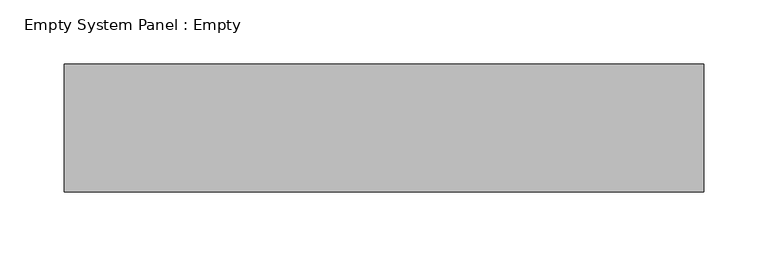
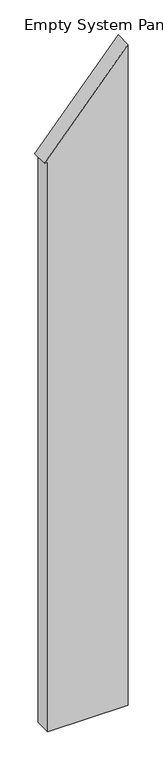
"""IFC4 building model written with IfcOpenShell, lengths in millimetres: plate geometry, Empty System Panel : Empty."""

from ifc_helpers import new_model, si_unit, frame, origin, place, context, project, spatial, polyline, outline, extrude, source, transform, mapped, element, save


def empty_system_panel_empty_4dc57234(model_context):
    return source(origin(), model_context, "Body", "SweptSolid", [
        extrude(outline(polyline([(0.0, -229.7473037), (0.0, 249.7473037), (4175.0956401, 249.7473037), (3598.4443129, -249.7473037), (3598.4443129, -229.7473037), (0.0, -229.7473037)])), frame((0.0, -50.0, 0.0), z_axis=(0.0, 1.0, 0.0), x_axis=(0.0, 0.0, 1.0)), (0.0, 0.0, 1.0), 100.0),
    ])


if __name__ == "__main__":
    model = new_model("IFC4")
    model_context = context("Model", 3, world=origin())
    ifc_project = project(units=[si_unit("LENGTHUNIT", "METRE", prefix="MILLI")], contexts=[model_context])
    site = spatial("IfcSite", under=ifc_project)
    building = spatial("IfcBuilding", under=site)
    placement = place(None, origin())
    empty_system_panel_empty_shape = empty_system_panel_empty_4dc57234(model_context)
    element("IfcPlate", 1, ObjectType="Empty System Panel : Empty", at=placement, inside=building, context=model_context, shape_type="MappedRepresentation", body=[
        mapped(empty_system_panel_empty_shape, transform((0.0, 0.0, 0.0), x_axis=(1.0, 0.0, 0.0), y_axis=(0.0, 1.0, 0.0), z_axis=(0.0, 0.0, 1.0))),
    ])
    save(model, "model.ifc")
